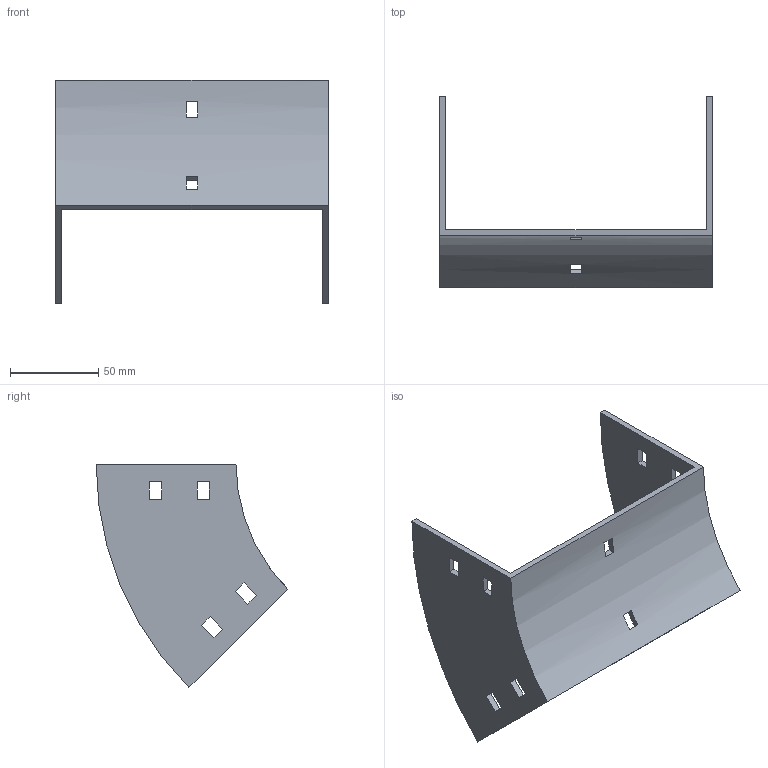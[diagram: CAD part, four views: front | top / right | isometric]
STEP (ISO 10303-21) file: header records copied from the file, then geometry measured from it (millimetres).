
FILE_DESCRIPTION (( 'STEP AP214' ), '1' );
FILE_NAME ('34B1C150.step', '2025-02-21T09:29:21', ( '' ), ( '' ), 'SwSTEP 2.0', 'SolidWorks 2023', '' );
FILE_SCHEMA (( 'AUTOMOTIVE_DESIGN' ));
Length unit declared in the file: millimetre
Products named in the file (1): 34B1C150
Bounding box: 154 x 108.29 x 126.57 mm (x, y, z)
Volume: 99329.1 mm3; surface area: 61041 mm2
Topology: 1 solids, 1 shells, 50 faces, 144 edges, 96 vertices
Faces by surface type: plane 46, cylinder 4
Entity records: 1687 total; most frequent: CARTESIAN_POINT 291, ORIENTED_EDGE 288, DIRECTION 262, EDGE_CURVE 144, LINE 128, VECTOR 128, VERTEX_POINT 96, EDGE_LOOP 70
